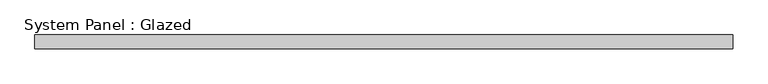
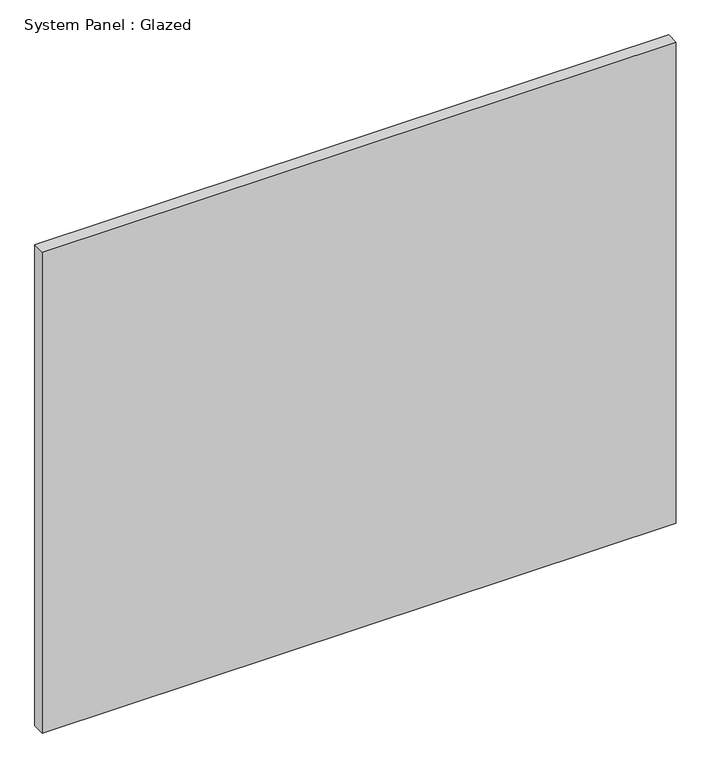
"""IFC4 building model written with IfcOpenShell, lengths in millimetres: plate geometry, System Panel : Glazed."""

from ifc_helpers import new_model, si_unit, origin, origin_with_axes, place, context, project, spatial, polyline, outline, extrude, source, transform, mapped, element, save


def system_panel_glazed_3af11058(model_context):
    return source(origin(), model_context, "Body", "SweptSolid", [
        extrude(outline(polyline([(639.1601177, -49.5), (-639.1601177, -49.5), (-639.1601177, -24.5), (639.1601177, -24.5), (639.1601177, -49.5)])), origin_with_axes(), (0.0, 0.0, 1.0), 1025.0),
    ])


if __name__ == "__main__":
    model = new_model("IFC4")
    model_context = context("Model", 3, world=origin())
    ifc_project = project(units=[si_unit("LENGTHUNIT", "METRE", prefix="MILLI")], contexts=[model_context])
    site = spatial("IfcSite", under=ifc_project)
    building = spatial("IfcBuilding", under=site)
    placement = place(None, origin())
    system_panel_glazed_shape = system_panel_glazed_3af11058(model_context)
    element("IfcPlate", 1, ObjectType="System Panel : Glazed", at=placement, inside=building, context=model_context, shape_type="MappedRepresentation", body=[
        mapped(system_panel_glazed_shape, transform((0.0, 0.0, 0.0), x_axis=(1.0, 0.0, 0.0), y_axis=(0.0, 1.0, 0.0), z_axis=(0.0, 0.0, 1.0))),
    ])
    save(model, "model.ifc")
